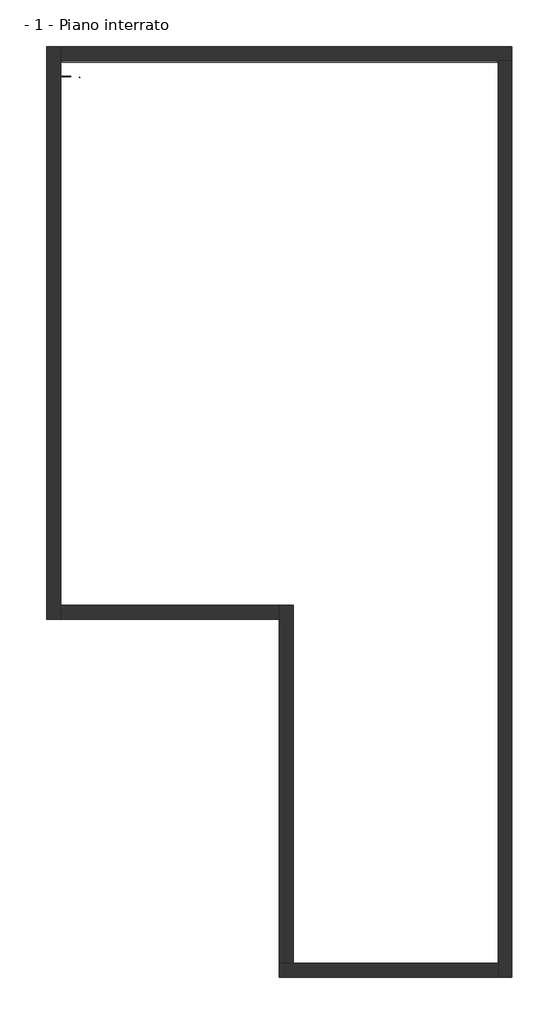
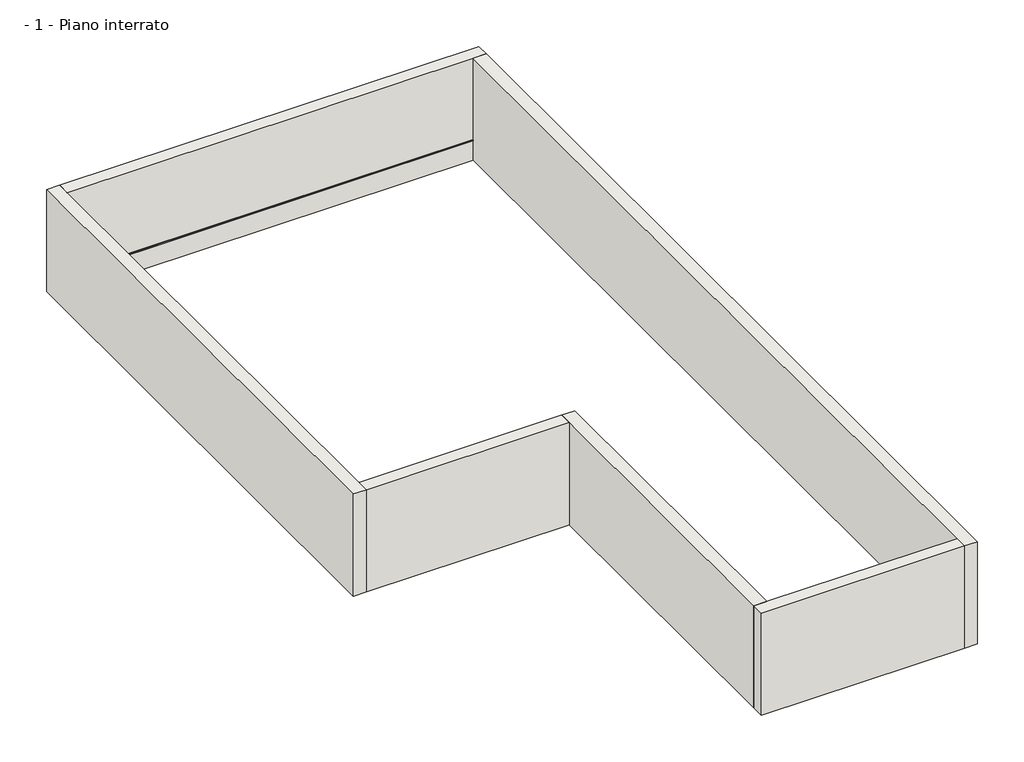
# One storey: 6 walls, 3 proxies.
"""IFC4 building model written with IfcOpenShell, lengths in millimetres."""

import ifcopenshell
import ifcopenshell.guid

model = None  # the IFC model being written
_history = None  # IfcOwnerHistory: only IFC2X3 demands one
_inside = {}  # id of a spatial element -> (the spatial element, [elements in it])
_under = {}  # id of a project, library or spatial element -> (it, [spatial elements below it])
_declared = {}  # id of a project -> (the project, [libraries it declares])
_typed = {}  # id of a type object -> (the type object, [elements of that type])
_made_of = {}  # id of a material, layer set ... -> (it, [elements and type objects made of it])


def new_model(schema):
    """Start an empty IFC model of exactly this schema.

    Asked for "IFC4X3", IfcOpenShell would pick the latest addendum, in which some entities
    have other attributes; the version numbers below select the first issue.
    IFC2X3 requires an IfcOwnerHistory on every rooted entity: one is made here for all.
    """
    global model, _history
    if schema == "IFC4X3":
        model = ifcopenshell.file(schema_version=(4, 3, 0, 0))
    else:
        model = ifcopenshell.file(schema=schema)
    _inside.clear()
    _under.clear()
    _declared.clear()
    _typed.clear()
    _made_of.clear()
    _history = None
    if model.schema == "IFC2X3":
        org = make("IfcOrganization", Name="unknown")
        user = make(
            "IfcPersonAndOrganization",
            ThePerson=make("IfcPerson", FamilyName="unknown"),
            TheOrganization=org,
        )
        app = make(
            "IfcApplication",
            ApplicationDeveloper=org,
            Version="unknown",
            ApplicationFullName="unknown",
            ApplicationIdentifier="unknown",
        )
        _history = make(
            "IfcOwnerHistory",
            OwningUser=user,
            OwningApplication=app,
            ChangeAction="ADDED",
            CreationDate=0,
        )
    return model


def make(cls, **values):
    """One entity of the class cls with the attributes given. An attribute that is None is left unset."""
    return model.create_entity(
        cls, **{name: value for name, value in values.items() if value is not None}
    )


def rooted(cls, **values):
    """An entity with a GlobalId (a new one), such as an element, a storey or a relation."""
    return make(cls, GlobalId=ifcopenshell.guid.new(), OwnerHistory=_history, **values)


def si_unit(unit_type, name, prefix=None):
    """IfcSIUnit, for example si_unit("LENGTHUNIT", "METRE", prefix="MILLI")."""
    return make("IfcSIUnit", UnitType=unit_type, Prefix=prefix, Name=name)


def assignment(units):
    """IfcUnitAssignment: the units of a project."""
    return None if units is None else make("IfcUnitAssignment", Units=units)


def point(xyz):
    """IfcCartesianPoint."""
    return None if xyz is None else make("IfcCartesianPoint", Coordinates=xyz)


def direction(xyz):
    """IfcDirection."""
    return None if xyz is None else make("IfcDirection", DirectionRatios=xyz)


def frame(location, z_axis=None, x_axis=None):
    """IfcAxis2Placement3D, a coordinate frame: its origin and axes. An axis left out is left unset."""
    return make(
        "IfcAxis2Placement3D",
        Location=point(location),
        Axis=direction(z_axis),
        RefDirection=direction(x_axis),
    )


def frame_2d(location, x_axis=None):
    """IfcAxis2Placement2D, a coordinate frame in the plane: its origin and x axis."""
    return make(
        "IfcAxis2Placement2D", Location=point(location), RefDirection=direction(x_axis)
    )


def origin():
    """The frame at (0, 0, 0) with its axes left unset."""
    return frame((0.0, 0.0, 0.0))


def origin_with_axes():
    """The frame at (0, 0, 0) with the z axis (0, 0, 1) and the x axis (1, 0, 0) written out."""
    return frame((0.0, 0.0, 0.0), z_axis=(0.0, 0.0, 1.0), x_axis=(1.0, 0.0, 0.0))


def origin_2d():
    """The frame at (0, 0) in the plane with its x axis left unset."""
    return frame_2d((0.0, 0.0))


def place(relative_to, where):
    """IfcLocalPlacement: puts the frame where relative to a parent placement (None: the world)."""
    return make(
        "IfcLocalPlacement", PlacementRelTo=relative_to, RelativePlacement=where
    )


def context(
    kind, dimensions, precision=None, world=None, true_north=None, identifier=None
):
    """IfcGeometricRepresentationContext, for example the 3D "Model" context."""
    return make(
        "IfcGeometricRepresentationContext",
        ContextIdentifier=identifier,
        ContextType=kind,
        CoordinateSpaceDimension=dimensions,
        Precision=precision,
        WorldCoordinateSystem=world,
        TrueNorth=true_north,
    )


def project(units=None, contexts=None):
    """IfcProject with its units and contexts."""
    return rooted(
        "IfcProject",
        Name="project",
        RepresentationContexts=contexts,
        UnitsInContext=assignment(units),
    )


def spatial(cls, under=None, at=None, **own):
    """A site, building, storey or space (cls), placed at a placement, below another one or the project."""
    s = rooted(cls, ObjectPlacement=at, **own)
    if under is not None:
        _under.setdefault(under.id(), (under, []))[1].append(s)
    return s


def polyline(points):
    """IfcPolyline through the points."""
    return make("IfcPolyline", Points=[point(p) for p in points])


def circle_curve(where, radius):
    """IfcCircle in the frame where."""
    return make("IfcCircle", Position=where, Radius=radius)


def trimmed(basis, trim1, trim2, sense, master):
    """IfcTrimmedCurve: the piece of a basis curve between two trims."""
    return make(
        "IfcTrimmedCurve",
        BasisCurve=basis,
        Trim1=trim1,
        Trim2=trim2,
        SenseAgreement=sense,
        MasterRepresentation=master,
    )


def segment(curve, same_sense, transition):
    """IfcCompositeCurveSegment."""
    return make(
        "IfcCompositeCurveSegment",
        Transition=transition,
        SameSense=same_sense,
        ParentCurve=curve,
    )


def composite_curve(segments, self_intersect=None):
    """IfcCompositeCurve: segments joined end to end."""
    return make("IfcCompositeCurve", Segments=segments, SelfIntersect=self_intersect)


def outline(outer, holes=None, kind="AREA"):
    """IfcArbitraryClosedProfileDef: a profile drawn as a closed curve; with holes, ...WithVoids."""
    if holes is None:
        return make("IfcArbitraryClosedProfileDef", ProfileType=kind, OuterCurve=outer)
    return make(
        "IfcArbitraryProfileDefWithVoids",
        ProfileType=kind,
        OuterCurve=outer,
        InnerCurves=holes,
    )


def extrude(swept, where, along, depth):
    """IfcExtrudedAreaSolid: the profile swept, set in the frame where, extruded along a direction by depth."""
    return make(
        "IfcExtrudedAreaSolid",
        SweptArea=swept,
        Position=where,
        ExtrudedDirection=direction(along),
        Depth=depth,
    )


def faces_of(points, faces, orient=None, outer=None):
    """IfcFace entities. A face is a list of loops; a loop is a list of indices into points, from 0.

    orient and outer hold one flag for each loop. By default every Orientation is true, the
    first loop of a face is its IfcFaceOuterBound and the others are IfcFaceBound.
    """
    made = []
    for i, loops in enumerate(faces):
        bounds = []
        for j, loop in enumerate(loops):
            is_outer = j == 0 if outer is None else outer[i][j]
            bounds.append(
                make(
                    "IfcFaceOuterBound" if is_outer else "IfcFaceBound",
                    Bound=make("IfcPolyLoop", Polygon=[points[k] for k in loop]),
                    Orientation=True if orient is None else orient[i][j],
                )
            )
        made.append(make("IfcFace", Bounds=bounds))
    return made


def faceted_brep(points, faces, orient=None, outer=None, voids=None):
    """IfcFacetedBrep: a solid bounded by flat faces; with voids (closed shells), ...WithVoids."""
    shared = [point(p) for p in points]
    hull = make("IfcClosedShell", CfsFaces=faces_of(shared, faces, orient, outer))
    if voids is None:
        return make("IfcFacetedBrep", Outer=hull)
    return make(
        "IfcFacetedBrepWithVoids",
        Outer=hull,
        Voids=[
            make(cls, CfsFaces=faces_of(shared, fs, o, b)) for cls, fs, o, b in voids
        ],
    )


def shape(context_of_items, identifier, shape_type, items):
    """IfcShapeRepresentation: the items that make up one representation, for example the "Body"."""
    return make(
        "IfcShapeRepresentation",
        ContextOfItems=context_of_items,
        RepresentationIdentifier=identifier,
        RepresentationType=shape_type,
        Items=items,
    )


def source(mapping_origin, context_of_items, identifier, shape_type, items):
    """IfcRepresentationMap: a shape defined once, which mapped items show again and again."""
    return make(
        "IfcRepresentationMap",
        MappingOrigin=mapping_origin,
        MappedRepresentation=shape(context_of_items, identifier, shape_type, items),
    )


def transform(
    local_origin,
    x_axis=None,
    y_axis=None,
    z_axis=None,
    scale=None,
    scale2=None,
    scale3=None,
    uniform=True,
):
    """IfcCartesianTransformationOperator3D, or its non-uniform kind. x_axis, y_axis, z_axis: its Axis1, 2, 3."""
    if uniform:
        return make(
            "IfcCartesianTransformationOperator3D",
            Axis1=direction(x_axis),
            Axis2=direction(y_axis),
            LocalOrigin=point(local_origin),
            Scale=scale,
            Axis3=direction(z_axis),
        )
    return make(
        "IfcCartesianTransformationOperator3DnonUniform",
        Axis1=direction(x_axis),
        Axis2=direction(y_axis),
        LocalOrigin=point(local_origin),
        Scale=scale,
        Axis3=direction(z_axis),
        Scale2=scale2,
        Scale3=scale3,
    )


def mapped(mapping_source, mapping_target):
    """IfcMappedItem: shows the shape of a source again, moved by a transform."""
    return make(
        "IfcMappedItem", MappingSource=mapping_source, MappingTarget=mapping_target
    )


def made_of(thing, what):
    """Note that an element or type object is made of a material, layer set ...; save() writes the relation."""
    if what is not None:
        _made_of.setdefault(what.id(), (what, []))[1].append(thing)
    return thing


def element(
    cls,
    number,
    at=None,
    inside=None,
    cuts=None,
    type_object=None,
    material=None,
    context=None,
    identifier="Body",
    shape_type=None,
    held_by="IfcProductDefinitionShape",
    body=None,
    shapes=None,
    **own,
):
    """One element of the class cls, such as IfcWall. Its Tag is "e" and its number.

    at: its placement. inside: the storey or other place that contains it. cuts: it is an
    opening in that element (IfcRelVoidsElement). A single representation is given by context,
    identifier, shape_type and body (its items); several are given by shapes. held_by: the class
    of the entity that holds the representations. save() writes the other relations.
    """
    e = rooted(cls, Tag="e%d" % number, ObjectPlacement=at, **own)
    if body is not None:
        shapes = [shape(context, identifier, shape_type, body)]
    if shapes is not None:
        e.Representation = make(held_by, Representations=shapes)
    if inside is not None:
        _inside.setdefault(inside.id(), (inside, []))[1].append(e)
    if cuts is not None:
        rooted(
            "IfcRelVoidsElement", RelatingBuildingElement=cuts, RelatedOpeningElement=e
        )
    if type_object is not None:
        _typed.setdefault(type_object.id(), (type_object, []))[1].append(e)
    return made_of(e, material)


def aggregate(whole, parts):
    """IfcRelAggregates: a whole, such as a stair, and the parts it consists of."""
    return rooted("IfcRelAggregates", RelatingObject=whole, RelatedObjects=parts)


def save(model, path):
    """Write the relations noted so far, then the file.

    IfcRelAggregates (storeys below a building ...), IfcRelContainedInSpatialStructure (elements
    in a storey), IfcRelDefinesByType, IfcRelAssociatesMaterial and IfcRelDeclares: one each for
    every whole, place, type object, material and project.
    """
    for whole, parts in _under.values():
        aggregate(whole, parts)
    for where, things in _inside.values():
        rooted(
            "IfcRelContainedInSpatialStructure",
            RelatedElements=things,
            RelatingStructure=where,
        )
    for kind, things in _typed.values():
        rooted("IfcRelDefinesByType", RelatedObjects=things, RelatingType=kind)
    for what, things in _made_of.values():
        rooted("IfcRelAssociatesMaterial", RelatedObjects=things, RelatingMaterial=what)
    for by, libraries in _declared.values():
        rooted("IfcRelDeclares", RelatingContext=by, RelatedDefinitions=libraries)
    model.write(path)


def generic_models_3b7ed561(model_context):
    return source(origin(), model_context, "Body", "SweptSolid", [
        extrude(outline(composite_curve([segment(trimmed(circle_curve(origin_2d(), 5.0), [point((-5.0, 0.0))], [point((5.0, 0.0))], False, "CARTESIAN"), True, "CONTINUOUS"), segment(trimmed(circle_curve(origin_2d(), 5.0), [point((5.0, 0.0))], [point((-5.0, 0.0))], False, "CARTESIAN"), True, "CONTINUOUS")], self_intersect=False)), origin_with_axes(), (0.0, 0.0, 1.0), 200.0),
    ])


model = new_model("IFC4")

# Units and contexts
model_context = context("Model", 3, world=origin())
ifc_project = project(units=[si_unit("LENGTHUNIT", "METRE", prefix="MILLI")], contexts=[model_context])

# Site, building, storey
site = spatial("IfcSite", under=ifc_project)
building = spatial("IfcBuilding", under=site)
storey = spatial("IfcBuildingStorey", under=building, Name="- 1 - Piano interrato", Elevation=-2500.0)

# Proxies
placement = place(None, origin())
element("IfcBuildingElementProxy", 1, Name="WT 102 VOLTECO", ObjectType="WT 102 VOLTECO", at=placement, inside=storey, context=model_context, shape_type="SweptSolid", body=[
    extrude(outline(polyline([(-9690.8494157, 5494.5353636), (-9690.8494157, 5514.5353636), (-350.8494157, 5514.5353636), (-350.8494157, 5494.5353636), (-9690.8494157, 5494.5353636)])), frame((0.0, 0.0, -1991.0), z_axis=(0.0, 0.0, 1.0), x_axis=(1.0, 0.0, 0.0)), (0.0, 0.0, 1.0), 20.0),
])
generic_models_shape = generic_models_3b7ed561(model_context)
element("IfcBuildingElementProxy", 2, Name="ITA-Connettori su parete verticale sigillati con AKTI-VO 201 : ITA-Connettori su parete verticale sigillati con AKTI-VO 201", ObjectType="ITA-Connettori su parete verticale sigillati con AKTI-VO 201 : ITA-Connettori su parete verticale sigillati con AKTI-VO 201", at=placement, inside=storey, context=model_context, shape_type="MappedRepresentation", body=[
    mapped(generic_models_shape, transform((-9710.8494157, 5194.5353636, -1865.9567183), x_axis=(0.0, 1.0, 0.0), y_axis=(0.0, 0.0, 1.0), z_axis=(1.0, 0.0, 0.0))),
])
element("IfcBuildingElementProxy", 3, Name="ITA-Connettori su struttura orizzontale sigillati con AKTI-VO 201 : ITA-Connettori su struttura orizzontale sigillati con AKTI-VO 201", ObjectType="ITA-Connettori su struttura orizzontale sigillati con AKTI-VO 201 : ITA-Connettori su struttura orizzontale sigillati con AKTI-VO 201", at=placement, inside=storey, context=model_context, shape_type="MappedRepresentation", body=[
    mapped(generic_models_shape, transform((-9320.8494157, 5174.5353636, -2001.0), x_axis=(1.0, 0.0, 0.0), y_axis=(0.0, 1.0, 0.0), z_axis=(0.0, 0.0, 1.0))),
])

# Walls
element("IfcWall", 4, ObjectType="Parete in muratura fuori terra", at=placement, inside=storey, context=model_context, shape_type="Brep", body=[
    faceted_brep([(-9730.8494157, -6465.4646364, -2500.0), (-9730.8494157, -6165.4646364, -2500.0), (-9730.8494157, 5534.5353636, -2500.0), (-9730.8494157, 5834.5353636, -2500.0), (-9730.8494157, 5834.5353636, 0.0), (-9730.8494157, 5534.5353636, 0.0), (-9730.8494157, -6165.4646364, 0.0), (-9730.8494157, -6465.4646364, 0.0), (-10030.8494157, -6465.4646364, -2500.0), (-10030.8494157, -6465.4646364, 0.0), (-10030.8494157, 5834.5353636, 0.0), (-10030.8494157, 5834.5353636, -2500.0)], [[[0, 1, 2, 3, 4, 5, 6, 7]], [[8, 9, 10, 11]], [[3, 2, 1, 0, 8, 11]], [[7, 6, 5, 4, 10, 9]], [[4, 3, 11, 10]], [[0, 7, 9, 8]]]),
])
element("IfcWall", 5, ObjectType="Parete in muratura fuori terra", at=placement, inside=storey, context=model_context, shape_type="Brep", body=[
    faceted_brep([(-9730.8494157, 5534.5353636, 0.0), (-9730.8494157, 5534.5353636, -2001.0), (-9730.8494157, 5534.5353636, -2500.0), (-330.8494157, 5534.5353636, -2500.0), (-30.8494157, 5534.5353636, -2500.0), (-30.8494157, 5534.5353636, 0.0), (-330.8494157, 5534.5353636, 0.0), (-9720.8494157, 5534.5353636, 0.0), (-9730.8494157, 5834.5353636, -2500.0), (-9730.8494157, 5834.5353636, 0.0), (-30.8494157, 5834.5353636, 0.0), (-30.8494157, 5834.5353636, -2500.0)], [[[0, 1, 2, 3, 4, 5, 6, 7]], [[8, 9, 10, 11]], [[4, 3, 2, 8, 11]], [[0, 7, 6, 5, 10, 9]], [[5, 4, 11, 10]], [[0, 9, 8, 2, 1]]]),
])
element("IfcWall", 6, ObjectType="Parete in muratura fuori terra", at=placement, inside=storey, context=model_context, shape_type="Brep", body=[
    faceted_brep([(-330.8494157, 5534.5353636, -2500.0), (-330.8494157, -13865.4646364, -2500.0), (-330.8494157, -14165.4646364, -2500.0), (-330.8494157, -14165.4646364, 0.0), (-330.8494157, -13865.4646364, 0.0), (-330.8494157, 5524.5353636, 0.0), (-330.8494157, 5534.5353636, 0.0), (-330.8494157, 5534.5353636, -2001.0), (-30.8494157, 5534.5353636, -2500.0), (-30.8494157, 5534.5353636, 0.0), (-30.8494157, -14165.4646364, 0.0), (-30.8494157, -14165.4646364, -2500.0)], [[[0, 1, 2, 3, 4, 5, 6, 7]], [[8, 9, 10, 11]], [[2, 1, 0, 8, 11]], [[6, 5, 4, 3, 10, 9]], [[0, 7, 6, 9, 8]], [[3, 2, 11, 10]]]),
])
element("IfcWall", 7, ObjectType="Parete in muratura fuori terra", at=placement, inside=storey, context=model_context, shape_type="Brep", body=[
    faceted_brep([(-330.8494157, -13865.4646364, -2500.0), (-4730.8494157, -13865.4646364, -2500.0), (-5030.8494157, -13865.4646364, -2500.0), (-5030.8494157, -13865.4646364, 0.0), (-4730.8494157, -13865.4646364, 0.0), (-340.8494157, -13865.4646364, 0.0), (-330.8494157, -13865.4646364, 0.0), (-330.8494157, -13865.4646364, -2001.0), (-330.8494157, -14165.4646364, -2500.0), (-330.8494157, -14165.4646364, 0.0), (-5030.8494157, -14165.4646364, 0.0), (-5030.8494157, -14165.4646364, -2500.0)], [[[0, 1, 2, 3, 4, 5, 6, 7]], [[8, 9, 10, 11]], [[2, 1, 0, 8, 11]], [[6, 5, 4, 3, 10, 9]], [[0, 7, 6, 9, 8]], [[3, 2, 11, 10]]]),
])
element("IfcWall", 8, ObjectType="Parete in muratura fuori terra", at=placement, inside=storey, context=model_context, shape_type="Brep", body=[
    faceted_brep([(-4730.8494157, -13865.4646364, -2500.0), (-4730.8494157, -6165.4646364, -2500.0), (-4730.8494157, -6165.4646364, 0.0), (-4730.8494157, -13855.4646364, 0.0), (-4730.8494157, -13865.4646364, 0.0), (-4730.8494157, -13865.4646364, -2001.0), (-5030.8494157, -6165.4646364, -2500.0), (-5030.8494157, -6465.4646364, -2500.0), (-5030.8494157, -13865.4646364, -2500.0), (-5030.8494157, -13865.4646364, 0.0), (-5030.8494157, -6465.4646364, 0.0), (-5030.8494157, -6165.4646364, 0.0)], [[[0, 1, 2, 3, 4, 5]], [[6, 7, 8, 9, 10, 11]], [[1, 0, 8, 7, 6]], [[4, 3, 2, 11, 10, 9]], [[0, 5, 4, 9, 8]], [[2, 1, 6, 11]]]),
])
element("IfcWall", 9, ObjectType="Parete in muratura fuori terra", at=placement, inside=storey, context=model_context, shape_type="Brep", body=[
    faceted_brep([(-9730.8494157, -6465.4646364, -2500.0), (-5030.8494157, -6465.4646364, -2500.0), (-5030.8494157, -6465.4646364, 0.0), (-9730.8494157, -6465.4646364, 0.0), (-5030.8494157, -6165.4646364, -2500.0), (-9730.8494157, -6165.4646364, -2500.0), (-9730.8494157, -6165.4646364, -2001.0), (-9730.8494157, -6165.4646364, 0.0), (-9720.8494157, -6165.4646364, 0.0), (-5030.8494157, -6165.4646364, 0.0)], [[[0, 1, 2, 3]], [[4, 5, 6, 7, 8, 9]], [[1, 0, 5, 4]], [[3, 2, 9, 8, 7]], [[2, 1, 4, 9]], [[3, 7, 6, 5, 0]]]),
])

save(model, "model.ifc")
